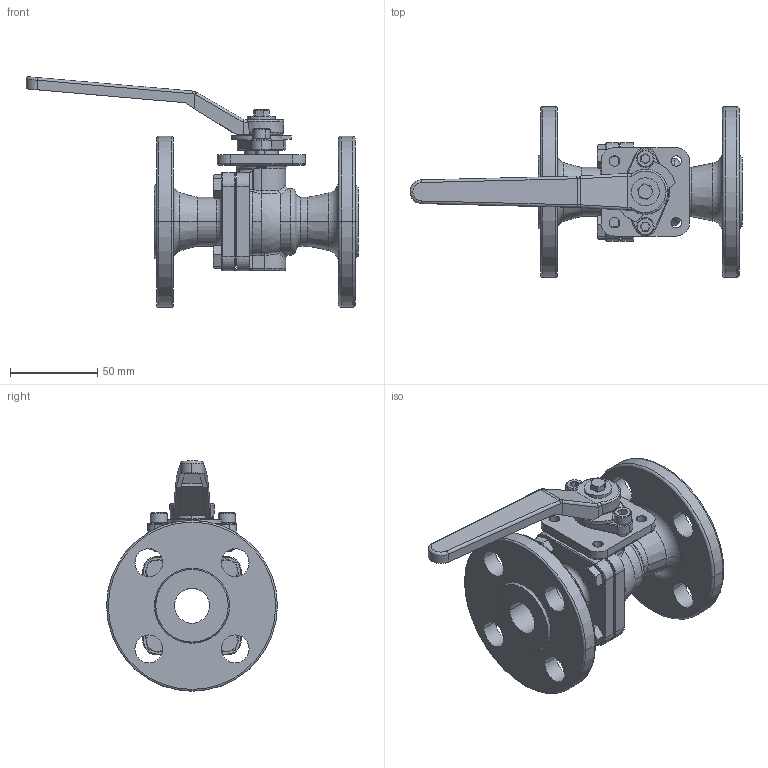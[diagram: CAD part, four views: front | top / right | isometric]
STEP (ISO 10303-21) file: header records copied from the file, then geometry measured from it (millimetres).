
FILE_DESCRIPTION(('Open CASCADE Model'),'2;1');
FILE_NAME('Open CASCADE Shape Model','2021-11-19T08:30:20',('Author'),( 'Open CASCADE'),'Open CASCADE STEP processor 7.3','Open CASCADE 7.3' ,'Unknown');
FILE_SCHEMA(('AUTOMOTIVE_DESIGN { 1 0 10303 214 1 1 1 1 }'));
Products named in the file (1): Open CASCADE STEP translator 7.3 1
Bounding box: 190.45 x 98 x 132.16 mm (x, y, z)
Volume: 268286.3 mm3; surface area: 89866.8 mm2
Topology: 1 solids, 9 shells, 615 faces, 1483 edges, 911 vertices
Faces by surface type: cylinder 221, plane 204, cone 96, torus 58, bspline 20, sphere 16
Entity records: 46736 total; most frequent: CARTESIAN_POINT 17267, DIRECTION 5607, ORIENTED_EDGE 2946, PCURVE 2946, DEFINITIONAL_REPRESENTATION 2946, LINE 2777, VECTOR 2777, EDGE_CURVE 1473
